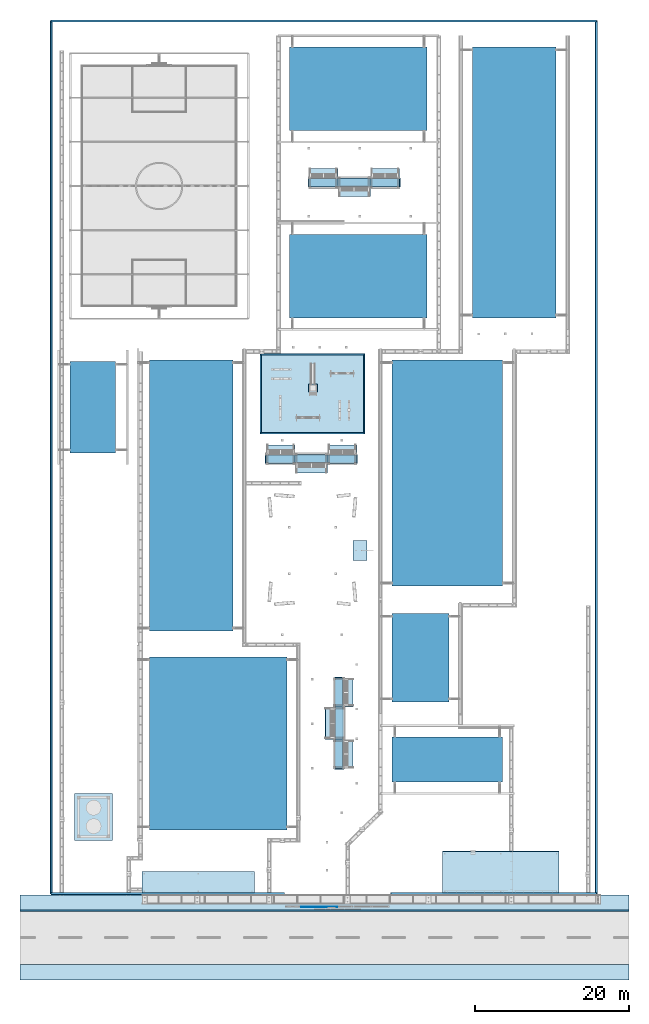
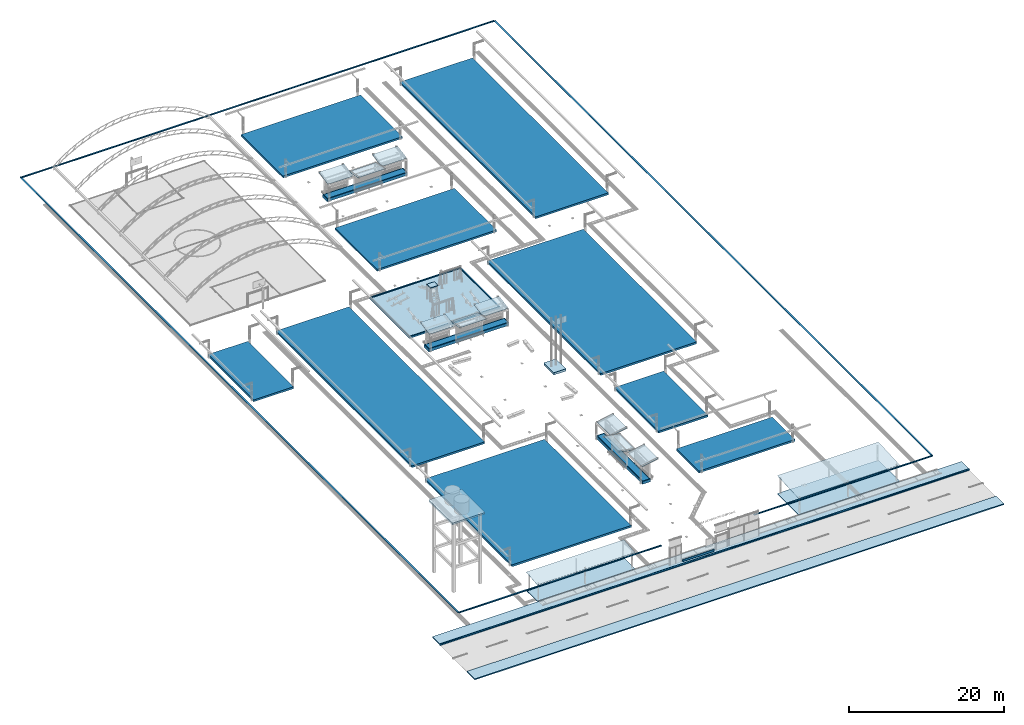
# One storey, part 25 of 90: 21 walls, 12 roofs, 12 slabs.
"""IFC2X3 building model written with IfcOpenShell, lengths in metres."""

from ifc_helpers import new_model, si_unit, origin, origin_with_axes, place, context, subcontext, project, spatial, faceted_brep, element, save


model = new_model("IFC2X3")

# Units and contexts
model_context = context("Model", 3, precision=1e-05, world=origin_with_axes())
body_context = subcontext(model_context, "Body", "Model", "MODEL_VIEW")
ifc_project = project(units=[si_unit("LENGTHUNIT", "METRE"), si_unit("AREAUNIT", "SQUARE_METRE"), si_unit("VOLUMEUNIT", "CUBIC_METRE"), si_unit("PLANEANGLEUNIT", "RADIAN")], contexts=[model_context])

# Site, building, storey
site_placement = place(None, origin_with_axes())
site = spatial("IfcSite", under=ifc_project, at=site_placement, Name="Predio Los Mangos - Morales, San Martín", CompositionType="ELEMENT")
building_placement = place(site_placement, origin())
building = spatial("IfcBuilding", under=site, at=building_placement, Name="Hogar de Refugio Temporal", CompositionType="ELEMENT")
storey_placement = place(building_placement, origin())
storey = spatial("IfcBuildingStorey", under=building, at=storey_placement, Name="NIVEL 1 (NPT +0.00)", CompositionType="ELEMENT", Elevation=0.0)

# Slabs
slab_1_placement = place(storey_placement, origin())
element("IfcSlab", 1, at=slab_1_placement, inside=storey, Name="vereda_ext", ObjectType="Piso / losa", PredefinedType="FLOOR", context=body_context, shape_type="Brep", body=[
    faceted_brep([(-3.0, 15.8, -0.02), (-3.0, 17.8, -0.02), (76.0, 17.8, -0.02), (76.0, 15.8, -0.02), (-3.0, 15.8, 0.15), (76.0, 15.8, 0.15), (76.0, 17.8, 0.15), (-3.0, 17.8, 0.15)], [[[0, 1, 2, 3]], [[4, 5, 6, 7]], [[0, 3, 5, 4]], [[3, 2, 6, 5]], [[2, 1, 7, 6]], [[1, 0, 4, 7]]]),
])
slab_2_placement = place(storey_placement, origin())
element("IfcSlab", 2, at=slab_2_placement, inside=storey, Name="vereda_otra", ObjectType="Piso / losa", PredefinedType="FLOOR", context=body_context, shape_type="Brep", body=[
    faceted_brep([(-3.0, 6.8, -0.02), (-3.0, 8.8, -0.02), (76.0, 8.8, -0.02), (76.0, 6.8, -0.02), (-3.0, 6.8, 0.15), (76.0, 6.8, 0.15), (76.0, 8.8, 0.15), (-3.0, 8.8, 0.15)], [[[0, 1, 2, 3]], [[4, 5, 6, 7]], [[0, 3, 5, 4]], [[3, 2, 6, 5]], [[2, 1, 7, 6]], [[1, 0, 4, 7]]]),
])
slab_3_placement = place(storey_placement, origin())
element("IfcSlab", 3, at=slab_3_placement, inside=storey, Name="sardinel", ObjectType="Piso / losa", PredefinedType="FLOOR", context=body_context, shape_type="Brep", body=[
    faceted_brep([(-3.0, 15.7, -0.02), (-3.0, 15.85, -0.02), (76.0, 15.85, -0.02), (76.0, 15.7, -0.02), (-3.0, 15.7, 0.17), (76.0, 15.7, 0.17), (76.0, 15.85, 0.17), (-3.0, 15.85, 0.17)], [[[0, 1, 2, 3]], [[4, 5, 6, 7]], [[0, 3, 5, 4]], [[3, 2, 6, 5]], [[2, 1, 7, 6]], [[1, 0, 4, 7]]]),
])
slab_4_placement = place(storey_placement, origin())
element("IfcSlab", 4, at=slab_4_placement, inside=storey, Name="losa_autos", ObjectType="Piso / losa", PredefinedType="FLOOR", context=body_context, shape_type="Brep", body=[
    faceted_brep([(51.8, 18.0, 0.0), (51.8, 23.5, 0.0), (66.9, 23.5, 0.0), (66.9, 18.0, 0.0), (51.8, 18.0, 0.1), (66.9, 18.0, 0.1), (66.9, 23.5, 0.1), (51.8, 23.5, 0.1)], [[[0, 1, 2, 3]], [[4, 5, 6, 7]], [[0, 3, 5, 4]], [[3, 2, 6, 5]], [[2, 1, 7, 6]], [[1, 0, 4, 7]]]),
])
slab_5_placement = place(storey_placement, origin())
element("IfcSlab", 5, at=slab_5_placement, inside=storey, Name="losa_motos", ObjectType="Piso / losa", PredefinedType="FLOOR", context=body_context, shape_type="Brep", body=[
    faceted_brep([(12.8, 18.0, 0.0), (12.8, 20.9, 0.0), (27.4, 20.9, 0.0), (27.4, 18.0, 0.0), (12.8, 18.0, 0.1), (27.4, 18.0, 0.1), (27.4, 20.9, 0.1), (12.8, 20.9, 0.1)], [[[0, 1, 2, 3]], [[4, 5, 6, 7]], [[0, 3, 5, 4]], [[3, 2, 6, 5]], [[2, 1, 7, 6]], [[1, 0, 4, 7]]]),
])
slab_6_placement = place(storey_placement, origin())
element("IfcSlab", 6, at=slab_6_placement, inside=storey, Name="tanque_losa", ObjectType="Piso / losa", PredefinedType="FLOOR", context=body_context, shape_type="Brep", body=[
    faceted_brep([(4.1, 24.9, 11.0), (4.1, 31.0, 11.0), (9.0, 31.0, 11.0), (9.0, 24.9, 11.0), (4.1, 24.9, 11.25), (9.0, 24.9, 11.25), (9.0, 31.0, 11.25), (4.1, 31.0, 11.25)], [[[0, 1, 2, 3]], [[4, 5, 6, 7]], [[0, 3, 5, 4]], [[3, 2, 6, 5]], [[2, 1, 7, 6]], [[1, 0, 4, 7]]]),
])
slab_7_placement = place(storey_placement, origin())
element("IfcSlab", 7, at=slab_7_placement, inside=storey, Name="asta_base", ObjectType="Piso / losa", PredefinedType="FLOOR", context=body_context, shape_type="Brep", body=[
    faceted_brep([(40.2, 61.2, 0.0), (40.2, 63.8, 0.0), (42.0, 63.8, 0.0), (42.0, 61.2, 0.0), (40.2, 61.2, 0.35), (42.0, 61.2, 0.35), (42.0, 63.8, 0.35), (40.2, 63.8, 0.35)], [[[0, 1, 2, 3]], [[4, 5, 6, 7]], [[0, 3, 5, 4]], [[3, 2, 6, 5]], [[2, 1, 7, 6]], [[1, 0, 4, 7]]]),
])
slab_8_placement = place(storey_placement, origin())
element("IfcSlab", 8, at=slab_8_placement, inside=storey, Name="juegos_arena", ObjectType="Piso / losa", PredefinedType="FLOOR", context=body_context, shape_type="Brep", body=[
    faceted_brep([(28.3, 77.8, 0.0), (28.3, 87.9, 0.0), (41.6, 87.9, 0.0), (41.6, 77.8, 0.0), (28.3, 77.8, 0.13), (41.6, 77.8, 0.13), (41.6, 87.9, 0.13), (28.3, 87.9, 0.13)], [[[0, 1, 2, 3]], [[4, 5, 6, 7]], [[0, 3, 5, 4]], [[3, 2, 6, 5]], [[2, 1, 7, 6]], [[1, 0, 4, 7]]]),
])
slab_9_placement = place(storey_placement, origin())
element("IfcSlab", 9, at=slab_9_placement, inside=storey, Name="juegos_sardinel", ObjectType="Piso / losa", PredefinedType="FLOOR", context=body_context, shape_type="Brep", body=[
    faceted_brep([(28.15, 77.65, 0.0), (28.15, 77.8, 0.0), (41.75, 77.8, 0.0), (41.75, 77.65, 0.0), (28.15, 77.65, 0.26), (41.75, 77.65, 0.26), (41.75, 77.8, 0.26), (28.15, 77.8, 0.26)], [[[0, 1, 2, 3]], [[4, 5, 6, 7]], [[0, 3, 5, 4]], [[3, 2, 6, 5]], [[2, 1, 7, 6]], [[1, 0, 4, 7]]]),
])
slab_10_placement = place(storey_placement, origin())
element("IfcSlab", 10, at=slab_10_placement, inside=storey, Name="juegos_sardinel", ObjectType="Piso / losa", PredefinedType="FLOOR", context=body_context, shape_type="Brep", body=[
    faceted_brep([(28.15, 87.9, 0.0), (28.15, 88.05, 0.0), (41.75, 88.05, 0.0), (41.75, 87.9, 0.0), (28.15, 87.9, 0.26), (41.75, 87.9, 0.26), (41.75, 88.05, 0.26), (28.15, 88.05, 0.26)], [[[0, 1, 2, 3]], [[4, 5, 6, 7]], [[0, 3, 5, 4]], [[3, 2, 6, 5]], [[2, 1, 7, 6]], [[1, 0, 4, 7]]]),
])
slab_11_placement = place(storey_placement, origin())
element("IfcSlab", 11, at=slab_11_placement, inside=storey, Name="juegos_sardinel", ObjectType="Piso / losa", PredefinedType="FLOOR", context=body_context, shape_type="Brep", body=[
    faceted_brep([(28.15, 77.8, 0.0), (28.15, 87.9, 0.0), (28.3, 87.9, 0.0), (28.3, 77.8, 0.0), (28.15, 77.8, 0.26), (28.3, 77.8, 0.26), (28.3, 87.9, 0.26), (28.15, 87.9, 0.26)], [[[0, 1, 2, 3]], [[4, 5, 6, 7]], [[0, 3, 5, 4]], [[3, 2, 6, 5]], [[2, 1, 7, 6]], [[1, 0, 4, 7]]]),
])
slab_12_placement = place(storey_placement, origin())
element("IfcSlab", 12, at=slab_12_placement, inside=storey, Name="juegos_sardinel", ObjectType="Piso / losa", PredefinedType="FLOOR", context=body_context, shape_type="Brep", body=[
    faceted_brep([(41.6, 77.8, 0.0), (41.6, 87.9, 0.0), (41.75, 87.9, 0.0), (41.75, 77.8, 0.0), (41.6, 77.8, 0.26), (41.75, 77.8, 0.26), (41.75, 87.9, 0.26), (41.6, 87.9, 0.26)], [[[0, 1, 2, 3]], [[4, 5, 6, 7]], [[0, 3, 5, 4]], [[3, 2, 6, 5]], [[2, 1, 7, 6]], [[1, 0, 4, 7]]]),
])

# Walls
wall_1_placement = place(storey_placement, origin())
element("IfcWall", 13, at=wall_1_placement, inside=storey, Name="E-01_zocalo", ObjectType="Muro", context=body_context, shape_type="Brep", body=[
    faceted_brep([(13.78, 26.28, 0.15), (13.78, 48.72, 0.15), (31.62, 48.72, 0.15), (31.62, 26.28, 0.15), (13.78, 26.28, 0.45), (31.62, 26.28, 0.45), (31.62, 48.72, 0.45), (13.78, 48.72, 0.45)], [[[0, 1, 2, 3]], [[4, 5, 6, 7]], [[0, 3, 5, 4]], [[3, 2, 6, 5]], [[2, 1, 7, 6]], [[1, 0, 4, 7]]]),
])
wall_2_placement = place(storey_placement, origin())
element("IfcWall", 14, at=wall_2_placement, inside=storey, Name="E-02_zocalo", ObjectType="Muro", context=body_context, shape_type="Brep", body=[
    faceted_brep([(45.28, 42.88, 0.15), (45.28, 54.32, 0.15), (52.62, 54.32, 0.15), (52.62, 42.88, 0.15), (45.28, 42.88, 0.45), (52.62, 42.88, 0.45), (52.62, 54.32, 0.45), (45.28, 54.32, 0.45)], [[[0, 1, 2, 3]], [[4, 5, 6, 7]], [[0, 3, 5, 4]], [[3, 2, 6, 5]], [[2, 1, 7, 6]], [[1, 0, 4, 7]]]),
])
wall_3_placement = place(storey_placement, origin())
element("IfcWall", 15, at=wall_3_placement, inside=storey, Name="E-03_zocalo", ObjectType="Muro", context=body_context, shape_type="Brep", body=[
    faceted_brep([(45.28, 32.48, 0.15), (45.28, 38.32, 0.15), (59.62, 38.32, 0.15), (59.62, 32.48, 0.15), (45.28, 32.48, 0.45), (59.62, 32.48, 0.45), (59.62, 38.32, 0.45), (45.28, 38.32, 0.45)], [[[0, 1, 2, 3]], [[4, 5, 6, 7]], [[0, 3, 5, 4]], [[3, 2, 6, 5]], [[2, 1, 7, 6]], [[1, 0, 4, 7]]]),
])
wall_4_placement = place(storey_placement, origin())
element("IfcWall", 16, at=wall_4_placement, inside=storey, Name="E-04_zocalo", ObjectType="Muro", context=body_context, shape_type="Brep", body=[
    faceted_brep([(13.78, 52.08, 0.15), (13.78, 87.22, 0.15), (24.62, 87.22, 0.15), (24.62, 52.08, 0.15), (13.78, 52.08, 0.45), (24.62, 52.08, 0.45), (24.62, 87.22, 0.45), (13.78, 87.22, 0.45)], [[[0, 1, 2, 3]], [[4, 5, 6, 7]], [[0, 3, 5, 4]], [[3, 2, 6, 5]], [[2, 1, 7, 6]], [[1, 0, 4, 7]]]),
])
wall_5_placement = place(storey_placement, origin())
element("IfcWall", 17, at=wall_5_placement, inside=storey, Name="E-05_zocalo", ObjectType="Muro", context=body_context, shape_type="Brep", body=[
    faceted_brep([(45.28, 57.88, 0.15), (45.28, 87.22, 0.15), (59.62, 87.22, 0.15), (59.62, 57.88, 0.15), (45.28, 57.88, 0.45), (59.62, 57.88, 0.45), (59.62, 87.22, 0.45), (45.28, 87.22, 0.45)], [[[0, 1, 2, 3]], [[4, 5, 6, 7]], [[0, 3, 5, 4]], [[3, 2, 6, 5]], [[2, 1, 7, 6]], [[1, 0, 4, 7]]]),
])
wall_6_placement = place(storey_placement, origin())
element("IfcWall", 18, at=wall_6_placement, inside=storey, Name="E-06_zocalo", ObjectType="Muro", context=body_context, shape_type="Brep", body=[
    faceted_brep([(31.98, 92.68, 0.15), (31.98, 103.52, 0.15), (49.82, 103.52, 0.15), (49.82, 92.68, 0.15), (31.98, 92.68, 0.45), (49.82, 92.68, 0.45), (49.82, 103.52, 0.45), (31.98, 103.52, 0.45)], [[[0, 1, 2, 3]], [[4, 5, 6, 7]], [[0, 3, 5, 4]], [[3, 2, 6, 5]], [[2, 1, 7, 6]], [[1, 0, 4, 7]]]),
])
wall_7_placement = place(storey_placement, origin())
element("IfcWall", 19, at=wall_7_placement, inside=storey, Name="E-08_zocalo", ObjectType="Muro", context=body_context, shape_type="Brep", body=[
    faceted_brep([(31.98, 116.98, 0.15), (31.98, 127.82, 0.15), (49.82, 127.82, 0.15), (49.82, 116.98, 0.15), (31.98, 116.98, 0.45), (49.82, 116.98, 0.45), (49.82, 127.82, 0.45), (31.98, 127.82, 0.45)], [[[0, 1, 2, 3]], [[4, 5, 6, 7]], [[0, 3, 5, 4]], [[3, 2, 6, 5]], [[2, 1, 7, 6]], [[1, 0, 4, 7]]]),
])
wall_8_placement = place(storey_placement, origin())
element("IfcWall", 20, at=wall_8_placement, inside=storey, Name="E-07_zocalo", ObjectType="Muro", context=body_context, shape_type="Brep", body=[
    faceted_brep([(55.68, 92.68, 0.15), (55.68, 127.82, 0.15), (66.52, 127.82, 0.15), (66.52, 92.68, 0.15), (55.68, 92.68, 0.45), (66.52, 92.68, 0.45), (66.52, 127.82, 0.45), (55.68, 127.82, 0.45)], [[[0, 1, 2, 3]], [[4, 5, 6, 7]], [[0, 3, 5, 4]], [[3, 2, 6, 5]], [[2, 1, 7, 6]], [[1, 0, 4, 7]]]),
])
wall_9_placement = place(storey_placement, origin())
element("IfcWall", 21, at=wall_9_placement, inside=storey, Name="E-09_zocalo", ObjectType="Muro", context=body_context, shape_type="Brep", body=[
    faceted_brep([(3.48, 75.18, 0.15), (3.48, 87.02, 0.15), (9.42, 87.02, 0.15), (9.42, 75.18, 0.15), (3.48, 75.18, 0.45), (9.42, 75.18, 0.45), (9.42, 87.02, 0.45), (3.48, 87.02, 0.45)], [[[0, 1, 2, 3]], [[4, 5, 6, 7]], [[0, 3, 5, 4]], [[3, 2, 6, 5]], [[2, 1, 7, 6]], [[1, 0, 4, 7]]]),
])
wall_10_placement = place(storey_placement, origin())
element("IfcWall", 22, at=wall_10_placement, inside=storey, Name="oe01_zocalo", ObjectType="Muro", context=body_context, shape_type="Brep", body=[
    faceted_brep([(33.508, 16.24, 0.05), (33.508, 16.3, 0.05), (38.1749, 16.3, 0.05), (38.1749, 16.24, 0.05), (33.508, 16.24, 0.45), (38.1749, 16.24, 0.45), (38.1749, 16.3, 0.45), (33.508, 16.3, 0.45)], [[[0, 1, 2, 3]], [[4, 5, 6, 7]], [[0, 3, 5, 4]], [[3, 2, 6, 5]], [[2, 1, 7, 6]], [[1, 0, 4, 7]]]),
])
wall_11_placement = place(storey_placement, origin())
element("IfcWall", 23, at=wall_11_placement, inside=storey, Name="cerco_remate", ObjectType="Muro", context=body_context, shape_type="Brep", body=[
    faceted_brep([(1.05, 17.875, 2.4), (1.05, 18.125, 2.4), (31.3, 18.125, 2.4), (31.3, 17.875, 2.4), (1.05, 17.875, 2.46), (31.3, 17.875, 2.46), (31.3, 18.125, 2.46), (1.05, 18.125, 2.46)], [[[0, 1, 2, 3]], [[4, 5, 6, 7]], [[0, 3, 5, 4]], [[3, 2, 6, 5]], [[2, 1, 7, 6]], [[1, 0, 4, 7]]]),
])
wall_12_placement = place(storey_placement, origin())
element("IfcWall", 24, at=wall_12_placement, inside=storey, Name="cerco_remate", ObjectType="Muro", context=body_context, shape_type="Brep", body=[
    faceted_brep([(45.1, 17.875, 2.4), (45.1, 18.125, 2.4), (71.76, 18.125, 2.4), (71.76, 17.875, 2.4), (45.1, 17.875, 2.46), (71.76, 17.875, 2.46), (71.76, 18.125, 2.46), (45.1, 18.125, 2.46)], [[[0, 1, 2, 3]], [[4, 5, 6, 7]], [[0, 3, 5, 4]], [[3, 2, 6, 5]], [[2, 1, 7, 6]], [[1, 0, 4, 7]]]),
])
wall_13_placement = place(storey_placement, origin())
element("IfcWall", 25, at=wall_13_placement, inside=storey, Name="cerco_remate", ObjectType="Muro", context=body_context, shape_type="Brep", body=[
    faceted_brep([(71.885, 18.0, 2.4), (71.635, 18.0, 2.4), (71.635, 131.21, 2.4), (71.885, 131.21, 2.4), (71.885, 18.0, 2.46), (71.885, 131.21, 2.46), (71.635, 131.21, 2.46), (71.635, 18.0, 2.46)], [[[0, 1, 2, 3]], [[4, 5, 6, 7]], [[0, 3, 5, 4]], [[3, 2, 6, 5]], [[2, 1, 7, 6]], [[1, 0, 4, 7]]]),
])
wall_14_placement = place(storey_placement, origin())
element("IfcWall", 26, at=wall_14_placement, inside=storey, Name="cerco_remate", ObjectType="Muro", context=body_context, shape_type="Brep", body=[
    faceted_brep([(71.76, 131.335, 2.4), (71.76, 131.085, 2.4), (1.05, 131.085, 2.4), (1.05, 131.335, 2.4), (71.76, 131.335, 2.46), (1.05, 131.335, 2.46), (1.05, 131.085, 2.46), (71.76, 131.085, 2.46)], [[[0, 1, 2, 3]], [[4, 5, 6, 7]], [[0, 3, 5, 4]], [[3, 2, 6, 5]], [[2, 1, 7, 6]], [[1, 0, 4, 7]]]),
])
wall_15_placement = place(storey_placement, origin())
element("IfcWall", 27, at=wall_15_placement, inside=storey, Name="cerco_remate", ObjectType="Muro", context=body_context, shape_type="Brep", body=[
    faceted_brep([(0.925, 131.21, 2.4), (1.175, 131.21, 2.4), (1.175, 18.0, 2.4), (0.925, 18.0, 2.4), (0.925, 131.21, 2.46), (0.925, 18.0, 2.46), (1.175, 18.0, 2.46), (1.175, 131.21, 2.46)], [[[0, 1, 2, 3]], [[4, 5, 6, 7]], [[0, 3, 5, 4]], [[3, 2, 6, 5]], [[2, 1, 7, 6]], [[1, 0, 4, 7]]]),
])
wall_16_placement = place(storey_placement, origin())
element("IfcWall", 28, at=wall_16_placement, inside=storey, Name="jardinera", ObjectType="Muro", context=body_context, shape_type="Brep", body=[
    faceted_brep([(39.0, 34.105, 0.0), (37.8, 34.105, 0.0), (37.8, 46.095, 0.0), (39.0, 46.095, 0.0), (39.0, 34.105, 0.45), (39.0, 46.095, 0.45), (37.8, 46.095, 0.45), (37.8, 34.105, 0.45)], [[[0, 1, 2, 3]], [[4, 5, 6, 7]], [[0, 3, 5, 4]], [[3, 2, 6, 5]], [[2, 1, 7, 6]], [[1, 0, 4, 7]]]),
])
wall_17_placement = place(storey_placement, origin())
element("IfcWall", 29, at=wall_17_placement, inside=storey, Name="jardinera_tierra", ObjectType="Muro", context=body_context, shape_type="Brep", body=[
    faceted_brep([(38.9, 34.205, 0.4), (37.9, 34.205, 0.4), (37.9, 45.995, 0.4), (38.9, 45.995, 0.4), (38.9, 34.205, 0.455), (38.9, 45.995, 0.455), (37.9, 45.995, 0.455), (37.9, 34.205, 0.455)], [[[0, 1, 2, 3]], [[4, 5, 6, 7]], [[0, 3, 5, 4]], [[3, 2, 6, 5]], [[2, 1, 7, 6]], [[1, 0, 4, 7]]]),
])
wall_18_placement = place(storey_placement, origin())
element("IfcWall", 30, at=wall_18_placement, inside=storey, Name="jardinera", ObjectType="Muro", context=body_context, shape_type="Brep", body=[
    faceted_brep([(40.795, 75.0, 0.0), (40.795, 73.8, 0.0), (28.805, 73.8, 0.0), (28.805, 75.0, 0.0), (40.795, 75.0, 0.45), (28.805, 75.0, 0.45), (28.805, 73.8, 0.45), (40.795, 73.8, 0.45)], [[[0, 1, 2, 3]], [[4, 5, 6, 7]], [[0, 3, 5, 4]], [[3, 2, 6, 5]], [[2, 1, 7, 6]], [[1, 0, 4, 7]]]),
])
wall_19_placement = place(storey_placement, origin())
element("IfcWall", 31, at=wall_19_placement, inside=storey, Name="jardinera_tierra", ObjectType="Muro", context=body_context, shape_type="Brep", body=[
    faceted_brep([(40.695, 74.9, 0.4), (40.695, 73.9, 0.4), (28.905, 73.9, 0.4), (28.905, 74.9, 0.4), (40.695, 74.9, 0.455), (28.905, 74.9, 0.455), (28.905, 73.9, 0.455), (40.695, 73.9, 0.455)], [[[0, 1, 2, 3]], [[4, 5, 6, 7]], [[0, 3, 5, 4]], [[3, 2, 6, 5]], [[2, 1, 7, 6]], [[1, 0, 4, 7]]]),
])
wall_20_placement = place(storey_placement, origin())
element("IfcWall", 32, at=wall_20_placement, inside=storey, Name="jardinera", ObjectType="Muro", context=body_context, shape_type="Brep", body=[
    faceted_brep([(46.345, 110.85, 0.0), (46.345, 109.65, 0.0), (34.355, 109.65, 0.0), (34.355, 110.85, 0.0), (46.345, 110.85, 0.45), (34.355, 110.85, 0.45), (34.355, 109.65, 0.45), (46.345, 109.65, 0.45)], [[[0, 1, 2, 3]], [[4, 5, 6, 7]], [[0, 3, 5, 4]], [[3, 2, 6, 5]], [[2, 1, 7, 6]], [[1, 0, 4, 7]]]),
])
wall_21_placement = place(storey_placement, origin())
element("IfcWall", 33, at=wall_21_placement, inside=storey, Name="jardinera_tierra", ObjectType="Muro", context=body_context, shape_type="Brep", body=[
    faceted_brep([(46.245, 110.75, 0.4), (46.245, 109.75, 0.4), (34.455, 109.75, 0.4), (34.455, 110.75, 0.4), (46.245, 110.75, 0.455), (34.455, 110.75, 0.455), (34.455, 109.75, 0.455), (46.245, 109.75, 0.455)], [[[0, 1, 2, 3]], [[4, 5, 6, 7]], [[0, 3, 5, 4]], [[3, 2, 6, 5]], [[2, 1, 7, 6]], [[1, 0, 4, 7]]]),
])

# Roofs
roof_1_placement = place(storey_placement, origin())
element("IfcRoof", 34, at=roof_1_placement, inside=storey, Name="techo_autos", ObjectType="Cobertura", ShapeType="NOTDEFINED", context=body_context, shape_type="Brep", body=[
    faceted_brep([(51.8, 18.0, 2.65), (66.9, 18.0, 2.65), (66.9, 23.5, 2.95), (51.8, 23.5, 2.95), (51.8, 18.0022, 2.6101), (51.8, 23.5022, 2.9101), (66.9, 23.5022, 2.9101), (66.9, 18.0022, 2.6101)], [[[0, 1, 2, 3]], [[4, 5, 6, 7]], [[0, 3, 5, 4]], [[1, 0, 4, 7]], [[2, 1, 7, 6]], [[3, 2, 6, 5]]]),
])
roof_2_placement = place(storey_placement, origin())
element("IfcRoof", 35, at=roof_2_placement, inside=storey, Name="techo_motos", ObjectType="Cobertura", ShapeType="NOTDEFINED", context=body_context, shape_type="Brep", body=[
    faceted_brep([(12.8, 18.0, 2.65), (27.4, 18.0, 2.65), (27.4, 20.9, 2.95), (12.8, 20.9, 2.95), (12.8, 18.0041, 2.6102), (12.8, 20.9041, 2.9102), (27.4, 20.9041, 2.9102), (27.4, 18.0041, 2.6102)], [[[0, 1, 2, 3]], [[4, 5, 6, 7]], [[0, 3, 5, 4]], [[1, 0, 4, 7]], [[2, 1, 7, 6]], [[3, 2, 6, 5]]]),
])
roof_3_placement = place(storey_placement, origin())
element("IfcRoof", 36, at=roof_3_placement, inside=storey, Name="tobogan_techo", ObjectType="Cobertura", ShapeType="NOTDEFINED", context=body_context, shape_type="Brep", body=[
    faceted_brep([(34.435, 83.104, 2.4), (34.435, 84.104, 2.4), (35.585, 84.104, 2.4), (35.585, 83.104, 2.4), (34.435, 83.104, 2.48), (35.585, 83.104, 2.48), (35.585, 84.104, 2.48), (34.435, 84.104, 2.48)], [[[0, 1, 2, 3]], [[4, 5, 6, 7]], [[0, 3, 5, 4]], [[3, 2, 6, 5]], [[2, 1, 7, 6]], [[1, 0, 4, 7]]]),
])
roof_4_placement = place(storey_placement, origin())
element("IfcRoof", 37, at=roof_4_placement, inside=storey, Name="oc01_cobertura_aluzinc", ObjectType="Cobertura", ShapeType="NOTDEFINED", context=body_context, shape_type="Brep", body=[
    faceted_brep([(37.8, 34.205, 2.7), (37.8, 37.995, 2.7), (40.2, 37.995, 3.16), (40.2, 34.205, 3.16), (37.7944, 34.205, 2.7295), (40.1944, 34.205, 3.1895), (40.1944, 37.995, 3.1895), (37.7944, 37.995, 2.7295)], [[[0, 1, 2, 3]], [[4, 5, 6, 7]], [[0, 3, 5, 4]], [[1, 0, 4, 7]], [[2, 1, 7, 6]], [[3, 2, 6, 5]]]),
])
roof_5_placement = place(storey_placement, origin())
element("IfcRoof", 38, at=roof_5_placement, inside=storey, Name="oc01_cobertura_aluzinc", ObjectType="Cobertura", ShapeType="NOTDEFINED", context=body_context, shape_type="Brep", body=[
    faceted_brep([(39.0, 37.995, 2.7), (39.0, 42.205, 2.7), (36.6, 42.205, 3.16), (36.6, 37.995, 3.16), (38.9944, 37.995, 2.6705), (36.5944, 37.995, 3.1305), (36.5944, 42.205, 3.1305), (38.9944, 42.205, 2.6705)], [[[0, 1, 2, 3]], [[4, 5, 6, 7]], [[0, 3, 5, 4]], [[1, 0, 4, 7]], [[2, 1, 7, 6]], [[3, 2, 6, 5]]]),
])
roof_6_placement = place(storey_placement, origin())
element("IfcRoof", 39, at=roof_6_placement, inside=storey, Name="oc01_cobertura_aluzinc", ObjectType="Cobertura", ShapeType="NOTDEFINED", context=body_context, shape_type="Brep", body=[
    faceted_brep([(37.8, 42.205, 2.7), (37.8, 45.995, 2.7), (40.2, 45.995, 3.16), (40.2, 42.205, 3.16), (37.7944, 42.205, 2.7295), (40.1944, 42.205, 3.1895), (40.1944, 45.995, 3.1895), (37.7944, 45.995, 2.7295)], [[[0, 1, 2, 3]], [[4, 5, 6, 7]], [[0, 3, 5, 4]], [[1, 0, 4, 7]], [[2, 1, 7, 6]], [[3, 2, 6, 5]]]),
])
roof_7_placement = place(storey_placement, origin())
element("IfcRoof", 40, at=roof_7_placement, inside=storey, Name="oc01_cobertura_aluzinc", ObjectType="Cobertura", ShapeType="NOTDEFINED", context=body_context, shape_type="Brep", body=[
    faceted_brep([(40.695, 73.8, 2.7), (36.905, 73.8, 2.7), (36.905, 76.2, 3.16), (40.695, 76.2, 3.16), (40.695, 73.7944, 2.7295), (40.695, 76.1944, 3.1895), (36.905, 76.1944, 3.1895), (36.905, 73.7944, 2.7295)], [[[0, 1, 2, 3]], [[4, 5, 6, 7]], [[0, 3, 5, 4]], [[1, 0, 4, 7]], [[2, 1, 7, 6]], [[3, 2, 6, 5]]]),
])
roof_8_placement = place(storey_placement, origin())
element("IfcRoof", 41, at=roof_8_placement, inside=storey, Name="oc01_cobertura_aluzinc", ObjectType="Cobertura", ShapeType="NOTDEFINED", context=body_context, shape_type="Brep", body=[
    faceted_brep([(36.905, 75.0, 2.7), (32.695, 75.0, 2.7), (32.695, 72.6, 3.16), (36.905, 72.6, 3.16), (36.905, 74.9944, 2.6705), (36.905, 72.5944, 3.1305), (32.695, 72.5944, 3.1305), (32.695, 74.9944, 2.6705)], [[[0, 1, 2, 3]], [[4, 5, 6, 7]], [[0, 3, 5, 4]], [[1, 0, 4, 7]], [[2, 1, 7, 6]], [[3, 2, 6, 5]]]),
])
roof_9_placement = place(storey_placement, origin())
element("IfcRoof", 42, at=roof_9_placement, inside=storey, Name="oc01_cobertura_aluzinc", ObjectType="Cobertura", ShapeType="NOTDEFINED", context=body_context, shape_type="Brep", body=[
    faceted_brep([(32.695, 73.8, 2.7), (28.905, 73.8, 2.7), (28.905, 76.2, 3.16), (32.695, 76.2, 3.16), (32.695, 73.7944, 2.7295), (32.695, 76.1944, 3.1895), (28.905, 76.1944, 3.1895), (28.905, 73.7944, 2.7295)], [[[0, 1, 2, 3]], [[4, 5, 6, 7]], [[0, 3, 5, 4]], [[1, 0, 4, 7]], [[2, 1, 7, 6]], [[3, 2, 6, 5]]]),
])
roof_10_placement = place(storey_placement, origin())
element("IfcRoof", 43, at=roof_10_placement, inside=storey, Name="oc01_cobertura_aluzinc", ObjectType="Cobertura", ShapeType="NOTDEFINED", context=body_context, shape_type="Brep", body=[
    faceted_brep([(46.245, 109.65, 2.7), (42.455, 109.65, 2.7), (42.455, 112.05, 3.16), (46.245, 112.05, 3.16), (46.245, 109.6444, 2.7295), (46.245, 112.0444, 3.1895), (42.455, 112.0444, 3.1895), (42.455, 109.6444, 2.7295)], [[[0, 1, 2, 3]], [[4, 5, 6, 7]], [[0, 3, 5, 4]], [[1, 0, 4, 7]], [[2, 1, 7, 6]], [[3, 2, 6, 5]]]),
])
roof_11_placement = place(storey_placement, origin())
element("IfcRoof", 44, at=roof_11_placement, inside=storey, Name="oc01_cobertura_aluzinc", ObjectType="Cobertura", ShapeType="NOTDEFINED", context=body_context, shape_type="Brep", body=[
    faceted_brep([(42.455, 110.85, 2.7), (38.245, 110.85, 2.7), (38.245, 108.45, 3.16), (42.455, 108.45, 3.16), (42.455, 110.8444, 2.6705), (42.455, 108.4444, 3.1305), (38.245, 108.4444, 3.1305), (38.245, 110.8444, 2.6705)], [[[0, 1, 2, 3]], [[4, 5, 6, 7]], [[0, 3, 5, 4]], [[1, 0, 4, 7]], [[2, 1, 7, 6]], [[3, 2, 6, 5]]]),
])
roof_12_placement = place(storey_placement, origin())
element("IfcRoof", 45, at=roof_12_placement, inside=storey, Name="oc01_cobertura_aluzinc", ObjectType="Cobertura", ShapeType="NOTDEFINED", context=body_context, shape_type="Brep", body=[
    faceted_brep([(38.245, 109.65, 2.7), (34.455, 109.65, 2.7), (34.455, 112.05, 3.16), (38.245, 112.05, 3.16), (38.245, 109.6444, 2.7295), (38.245, 112.0444, 3.1895), (34.455, 112.0444, 3.1895), (34.455, 109.6444, 2.7295)], [[[0, 1, 2, 3]], [[4, 5, 6, 7]], [[0, 3, 5, 4]], [[1, 0, 4, 7]], [[2, 1, 7, 6]], [[3, 2, 6, 5]]]),
])

save(model, "model.ifc")
